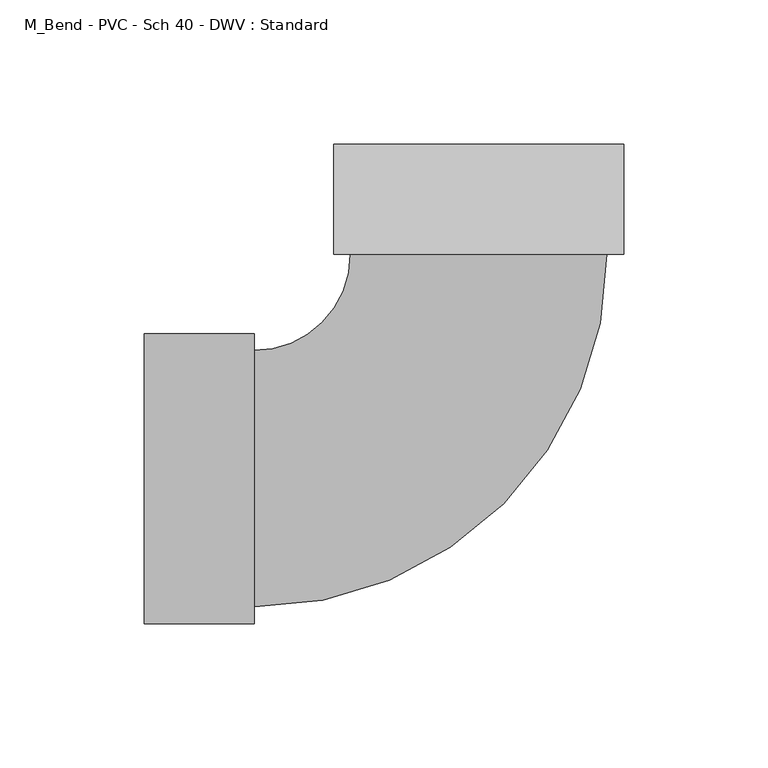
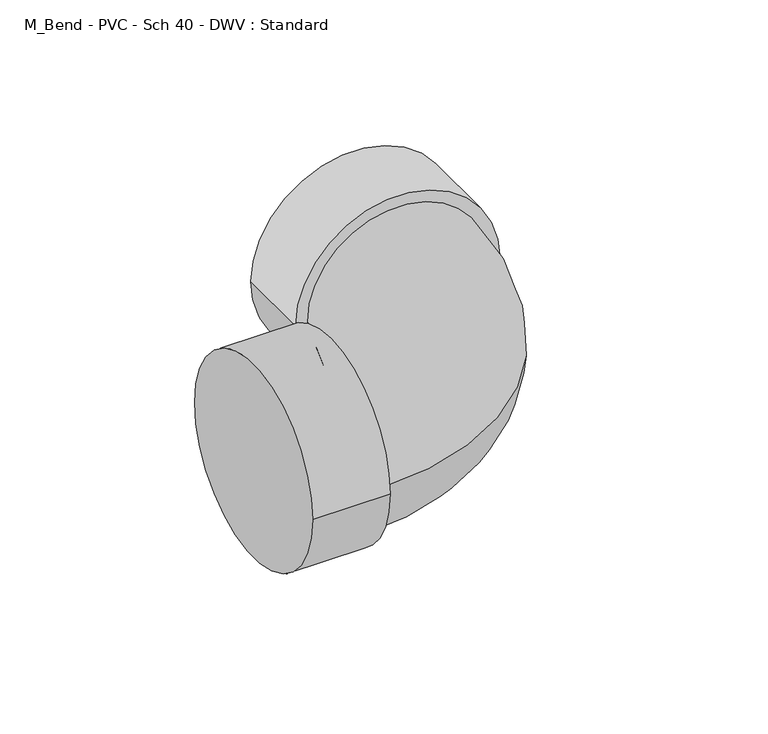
"""IFC4 building model written with IfcOpenShell, lengths in millimetres: pipe fitting geometry, M_Bend - PVC - Sch 40 - DWV : Standard."""

from ifc_helpers import new_model, si_unit, point, frame, origin, place, context, project, spatial, circle_curve, ellipse_curve, trimmed, source, transform, mapped, element, save
from ifc_brep_helpers import plane_surface, cylinder_surface, revolved_surface, advanced_brep


def m_bend_pvc_sch_40_dwv_standard_94070839(model_context):
    return source(origin(), model_context, "Body", "AdvancedBrep", [
        advanced_brep(
        [(-115.9002, -50.2666, 0.0), (-115.9002, 50.2666, 0.0), (-77.8002, -50.2666, 0.0), (-77.8002, 50.2666, 0.0), (-77.8002, -44.45, 0.0), (-77.8002, 44.45, 0.0), (-44.4496183, 77.8004181, 0.0), (44.4503817, 77.7999819, 0.0), (50.2669817, 77.7999534, 0.0), (-50.2662183, 77.8004466, 0.0), (50.2671687, 115.8999534, 0.0), (-50.2660313, 115.9004466, 0.0)],
        [
            (0, 1, circle_curve(frame((-115.9002, 0.0, 0.0), z_axis=(-1.0, 0.0, 0.0), x_axis=(0.0, 1.0, 0.0)), 50.2666)),
            (1, 0, circle_curve(frame((-115.9002, 0.0, 0.0), z_axis=(-1.0, 0.0, 0.0), x_axis=(0.0, 1.0, 0.0)), 50.2666)),
            (2, 3, circle_curve(frame((-77.8002, 0.0, 0.0), z_axis=(1.0, 0.0, 0.0), x_axis=(0.0, 1.0, 0.0)), 50.2666)),
            (3, 2, circle_curve(frame((-77.8002, 0.0, 0.0), z_axis=(1.0, 0.0, 0.0), x_axis=(0.0, 1.0, 0.0)), 50.2666)),
            (4, 5, circle_curve(frame((-77.8002, 0.0, 0.0), z_axis=(-1.0, 0.0, 0.0), x_axis=(0.0, 1.0, 0.0)), 44.45)),
            (5, 4, circle_curve(frame((-77.8002, 0.0, 0.0), z_axis=(-1.0, 0.0, 0.0), x_axis=(0.0, 1.0, 0.0)), 44.45)),
            (0, 2),
            (3, 1),
            (6, 5, circle_curve(frame((-77.8002, 77.8005817, 0.0), z_axis=(0.0, 0.0, -1.0), x_axis=(0.0, -1.0, 0.0)), 33.3505817)),
            (4, 7, circle_curve(frame((-77.8002, 77.8005817, 0.0), z_axis=(0.0, 0.0, 1.0), x_axis=(0.0, -1.0, 0.0)), 122.2505817)),
            (7, 6, circle_curve(frame((0.0003817, 77.8002, 0.0), z_axis=(-4.906551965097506e-06, -0.9999999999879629, 0.0), x_axis=(-0.9999999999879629, 4.906551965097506e-06, 0.0)), 44.45)),
            (6, 7, circle_curve(frame((0.0003817, 77.8002, 0.0), z_axis=(-4.906551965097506e-06, -0.9999999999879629, 0.0), x_axis=(-0.9999999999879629, 4.906551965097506e-06, 0.0)), 44.45)),
            (8, 9, circle_curve(frame((0.0003817, 77.8002, 0.0), z_axis=(-4.9065519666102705e-06, -0.999999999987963, 0.0), x_axis=(-0.999999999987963, 4.9065519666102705e-06, 0.0)), 50.2666)),
            (9, 8, circle_curve(frame((0.0003817, 77.8002, 0.0), z_axis=(-4.9065519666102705e-06, -0.999999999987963, 0.0), x_axis=(-0.999999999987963, 4.9065519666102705e-06, 0.0)), 50.2666)),
            (10, 11, circle_curve(frame((0.0005687, 115.9002, 0.0), z_axis=(4.9065519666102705e-06, 0.999999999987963, 0.0), x_axis=(-0.999999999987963, 4.9065519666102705e-06, 0.0)), 50.2666)),
            (11, 10, circle_curve(frame((0.0005687, 115.9002, 0.0), z_axis=(4.9065519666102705e-06, 0.999999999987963, 0.0), x_axis=(-0.999999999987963, 4.9065519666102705e-06, 0.0)), 50.2666)),
            (8, 10),
            (11, 9),
        ],
        [
            plane_surface(frame((-115.9002, 0.0, 0.0), z_axis=(-1.0, 0.0, 0.0), x_axis=(0.0, 0.0, 1.0))),
            plane_surface(frame((-77.8002, 0.0, 0.0), z_axis=(1.0, 0.0, 0.0), x_axis=(0.0, 0.0, 1.0))),
            cylinder_surface(frame((-115.9002, 0.0, 0.0), z_axis=(-1.0, 0.0, 0.0), x_axis=(0.0, 1.0, 0.0)), 50.2666),
            revolved_surface(trimmed(ellipse_curve(frame((-77.8002, 0.0, 0.0), z_axis=(-1.0, 0.0, 0.0), x_axis=(0.0, 1.0, 0.0)), 44.45, 44.45), [point((-77.8002, -44.45, 0.0))], [point((-77.8002, 44.45, 0.0))], True, "CARTESIAN"), (-77.8002, 77.8005817, 0.0), (0.0, 0.0, 1.0)),
            revolved_surface(trimmed(ellipse_curve(frame((-77.8002, 0.0, 0.0), z_axis=(-1.0, 0.0, 0.0), x_axis=(0.0, 1.0, 0.0)), 44.45, 44.45), [point((-77.8002, 44.45, 0.0))], [point((-77.8002, -44.45, 0.0))], True, "CARTESIAN"), (-77.8002, 77.8005817, 0.0), (0.0, 0.0, 1.0)),
            plane_surface(frame((0.0003817, 77.8002, 0.0), z_axis=(-4.9065519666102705e-06, -0.999999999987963, 0.0), x_axis=(0.0, 0.0, 1.0))),
            plane_surface(frame((0.0005687, 115.9002, 0.0), z_axis=(4.9065519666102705e-06, 0.999999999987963, 0.0), x_axis=(0.0, 0.0, 1.0))),
            cylinder_surface(frame((0.0003817, 77.8002, 0.0), z_axis=(-4.9065519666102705e-06, -0.999999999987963, 0.0), x_axis=(-0.999999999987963, 4.9065519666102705e-06, 0.0)), 50.2666),
        ],
        [
            (0, [[1, 2]]),
            (1, [[3, 4], [5, 6]]),
            (2, [[-1, 7, -4, 8]]),
            (2, [[-2, -8, -3, -7]]),
            (3, [[9, -5, 10, 11]]),
            (4, [[-9, 12, -10, -6]]),
            (5, [[13, 14], [-11, -12]]),
            (6, [[15, 16]]),
            (7, [[-13, 17, -16, 18]]),
            (7, [[-14, -18, -15, -17]]),
        ],
    ),
    ])


if __name__ == "__main__":
    model = new_model("IFC4")
    model_context = context("Model", 3, world=origin())
    ifc_project = project(units=[si_unit("LENGTHUNIT", "METRE", prefix="MILLI")], contexts=[model_context])
    site = spatial("IfcSite", under=ifc_project)
    building = spatial("IfcBuilding", under=site)
    placement = place(None, origin())
    m_bend_pvc_sch_40_dwv_standard_shape = m_bend_pvc_sch_40_dwv_standard_94070839(model_context)
    element("IfcPipeFitting", 1, ObjectType="M_Bend - PVC - Sch 40 - DWV : Standard", at=placement, inside=building, context=model_context, shape_type="MappedRepresentation", body=[
        mapped(m_bend_pvc_sch_40_dwv_standard_shape, transform((0.0, 0.0, 0.0), x_axis=(1.0, 0.0, 0.0), y_axis=(0.0, 1.0, 0.0), z_axis=(0.0, 0.0, 1.0))),
    ])
    save(model, "model.ifc")
